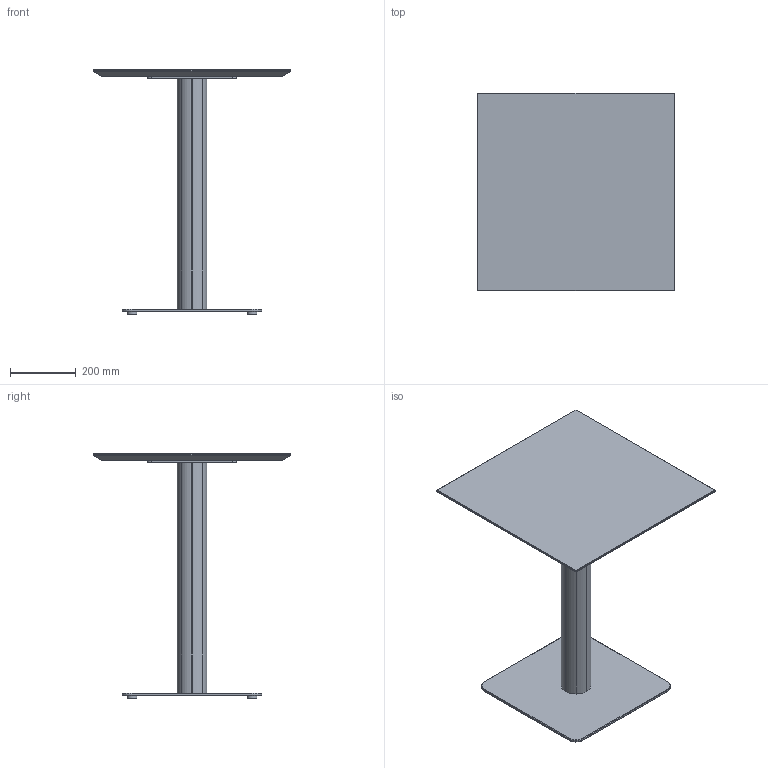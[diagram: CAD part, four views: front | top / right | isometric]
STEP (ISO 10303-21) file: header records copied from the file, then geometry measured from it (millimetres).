
FILE_DESCRIPTION( ('This file contains a STEP AP42 implementation' ,'as created by ZW3D STEP Interface translator.') ,'2;1' );
FILE_NAME( 'Fut - B_Carré - F4 - M5 - 600 x 600 x 750.stp' ,'24 911.164022', (''), ('ZWCAD Software Co.'), 'Version 1.0', 'ZW3D to STEP translator', '' );
FILE_SCHEMA(('AUTOMOTIVE_DESIGN { 1 0 10303 214 1 1 1 1 }'));
Length unit declared in the file: millimetre
Products named in the file (15): 0; PIED BISTROT PARAMETRIQUE_; CROIX ACIER 370 V.02_; CRX-X370-02_; SOCLE ACIER L 425x425 V.02_; SCL-R425-02_; PLA-R30A-01_; PLA-R30A-01; COLONNE ACIER Ø48.5 V.02_; TUB-D048-02_; PLA-R48A-01_; COLONNE BOIS PARAMETIQUE_; WUERTH 0276063020 Euro-screw 6.3x2 Verzinkt_; PLATEAU BISTROT PARAMETRIQUE_; insert_m6_13_
Assembly tree (23 placements, depth 3):
  0
  PIED BISTROT PARAMETRIQUE_
    CROIX ACIER 370 V.02_
      CRX-X370-02_
    SOCLE ACIER L 425x425 V.02_
      SCL-R425-02_
      PLA-R30A-01_
      PLA-R30A-01  x3
    COLONNE ACIER Ø48.5 V.02_
      TUB-D048-02_
      PLA-R48A-01_  x2
    COLONNE BOIS PARAMETIQUE_
    WUERTH 0276063020 Euro-screw 6.3x2 Verzinkt_
    PLATEAU BISTROT PARAMETRIQUE_
      insert_m6_13_  x8
Bounding box: 600 x 600 x 744 mm (x, y, z)
Volume: 11695206.1 mm3; surface area: 1903324.7 mm2
Topology: 23 solids, 23 shells, 557 faces, 1354 edges, 850 vertices
Faces by surface type: plane 282, bspline 125, cylinder 104, cone 45, torus 1
Full cylindrical faces by diameter (mm): 4.88 x1, 6 x8, 6.3 x1, 8 x45, 12 x2, 14 x2, 30 x4, 44.5 x3, 48.5 x1
Entity records: 13027 total; most frequent: CARTESIAN_POINT 3533, ORIENTED_EDGE 1722, DIRECTION 1612, EDGE_CURVE 861, VECTOR 554, LINE 554, VERTEX_POINT 552, AXIS2_PLACEMENT_3D 529
